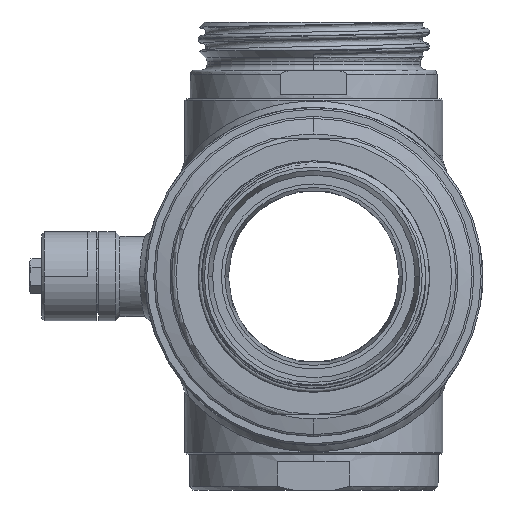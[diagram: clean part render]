
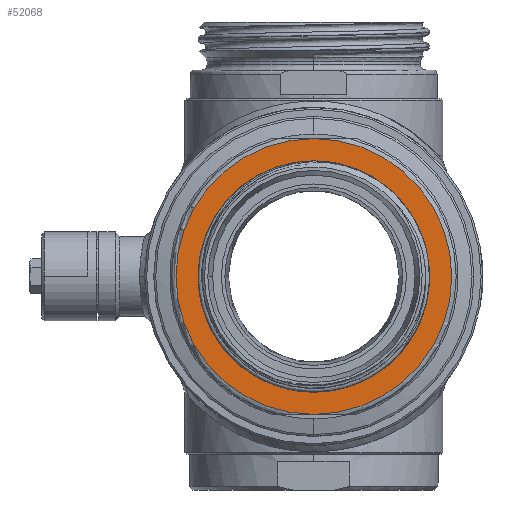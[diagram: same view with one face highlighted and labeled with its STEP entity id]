
A CAD part, left-side view. The second image highlights one B-rep face of the part: STEP entity #52068.
In plain terms, the highlighted planar face has unit normal (-1, 0, 0).
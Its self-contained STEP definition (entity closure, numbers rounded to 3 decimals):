
#19371=CARTESIAN_POINT('',(-116.,0.,0.));
#19372=DIRECTION('',(-1.,0.,0.));
#19373=DIRECTION('',(0.,0.,1.));
#19374=AXIS2_PLACEMENT_3D('',#19371,#19372,#19373);
#19554=CARTESIAN_POINT('',(-116.,0.,0.));
#19555=DIRECTION('',(-1.,0.,0.));
#19556=DIRECTION('',(0.,0.,-1.));
#19557=AXIS2_PLACEMENT_3D('',#19554,#19555,#19556);
#19670=CARTESIAN_POINT('',(-116.,0.,0.));
#19671=DIRECTION('',(-1.,0.,0.));
#19672=DIRECTION('',(0.,0.,1.));
#19673=AXIS2_PLACEMENT_3D('',#19670,#19671,#19672);
#19686=CARTESIAN_POINT('',(-116.,0.,0.));
#19687=DIRECTION('',(-1.,0.,0.));
#19688=DIRECTION('',(0.,0.,-1.));
#19689=AXIS2_PLACEMENT_3D('',#19686,#19687,#19688);
#35576=CARTESIAN_POINT('',(-116.,0.,63.));
#35577=CARTESIAN_POINT('',(-116.,0.,-63.));
#35578=VERTEX_POINT('',#35576);
#35579=VERTEX_POINT('',#35577);
#35672=CARTESIAN_POINT('',(-116.,0.,-77.5));
#35673=CARTESIAN_POINT('',(-116.,0.,77.5));
#35674=VERTEX_POINT('',#35672);
#35675=VERTEX_POINT('',#35673);
#52053=CARTESIAN_POINT('',(-116.,0.,0.));
#52054=DIRECTION('',(-1.,0.,0.));
#52055=DIRECTION('',(0.,1.,0.));
#52056=AXIS2_PLACEMENT_3D('',#52053,#52054,#52055);
#52057=PLANE('',#52056);
#52058=ORIENTED_EDGE('',*,*,#51960,.F.);
#52059=ORIENTED_EDGE('',*,*,#52022,.F.);
#52060=EDGE_LOOP('',(#52058,#52059));
#52061=FACE_OUTER_BOUND('',#52060,.F.);
#52063=ORIENTED_EDGE('',*,*,#52062,.T.);
#52065=ORIENTED_EDGE('',*,*,#52064,.T.);
#52066=EDGE_LOOP('',(#52063,#52065));
#52067=FACE_BOUND('',#52066,.F.);
#52068=ADVANCED_FACE('',(#52061,#52067),#52057,.T.);
#19375=CIRCLE('',#19374,77.5);
#19558=CIRCLE('',#19557,77.5);
#19674=CIRCLE('',#19673,63.);
#19690=CIRCLE('',#19689,63.);
#51960=EDGE_CURVE('',#35675,#35674,#19375,.T.);
#52022=EDGE_CURVE('',#35674,#35675,#19558,.T.);
#52062=EDGE_CURVE('',#35578,#35579,#19674,.T.);
#52064=EDGE_CURVE('',#35579,#35578,#19690,.T.);
